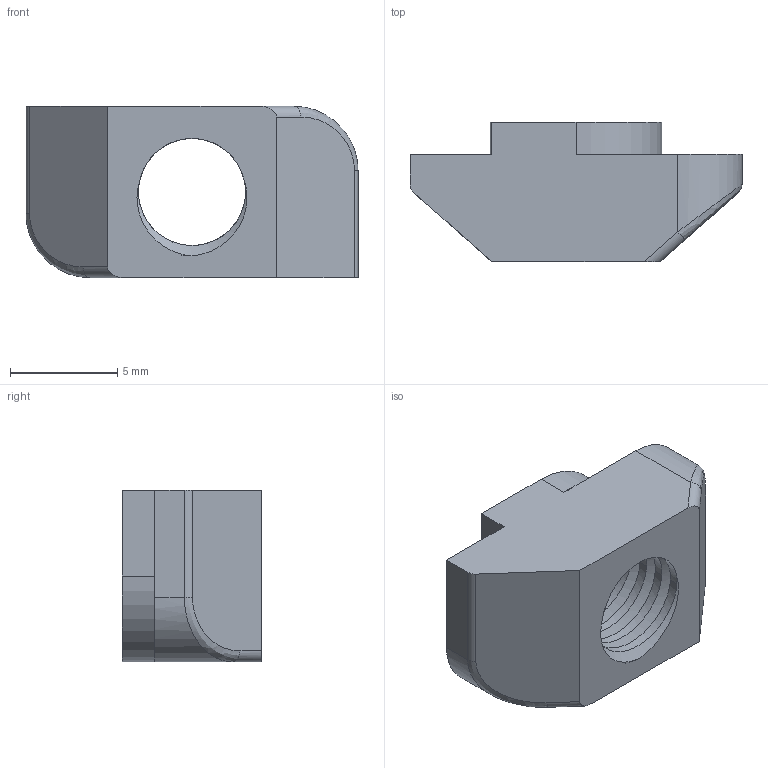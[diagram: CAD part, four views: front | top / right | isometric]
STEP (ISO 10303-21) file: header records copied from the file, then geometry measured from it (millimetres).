
FILE_DESCRIPTION (( 'STEP AP203' ), '1' );
FILE_NAME ('118-CE-TN-30.STEP', '2015-07-09T08:48:37', ( '' ), ( '' ), 'SwSTEP 2.0', 'SolidWorks 2013', '' );
FILE_SCHEMA (( 'CONFIG_CONTROL_DESIGN' ));
Length unit declared in the file: millimetre
Products named in the file (1): 118-CE-TN-30
Bounding box: 15.5 x 6.5 x 8 mm (x, y, z)
Volume: 451.2 mm3; surface area: 579.4 mm2
Topology: 1 solids, 1 shells, 38 faces, 104 edges, 68 vertices
Faces by surface type: cylinder 22, plane 12, bspline 4
Entity records: 2306 total; most frequent: CARTESIAN_POINT 1375, ORIENTED_EDGE 208, DIRECTION 149, EDGE_CURVE 104, VERTEX_POINT 68, LINE 51, VECTOR 51, AXIS2_PLACEMENT_3D 49
